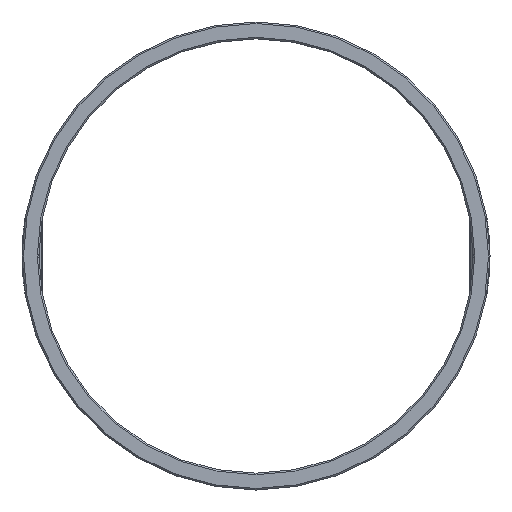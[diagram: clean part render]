
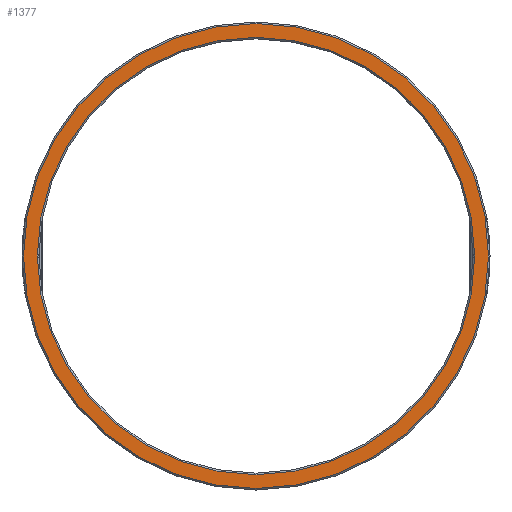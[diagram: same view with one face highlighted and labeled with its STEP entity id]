
A CAD part, left-side view. The second image highlights one B-rep face of the part: STEP entity #1377.
In plain terms, the highlighted planar face has unit normal (-1, 0, 0).
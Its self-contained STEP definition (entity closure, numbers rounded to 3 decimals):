
#1346=CARTESIAN_POINT('',(-20.5,14.1,0.));
#1347=VERTEX_POINT('',#1346);
#1348=CARTESIAN_POINT('',(-20.5,0.0,0.0));
#1349=DIRECTION('',(-1.0,0.0,0.0));
#1350=DIRECTION('',(0.0,-1.0,0.0));
#1351=AXIS2_PLACEMENT_3D('',#1348,#1349,#1350);
#1352=CIRCLE('',#1351,14.1);
#1353=EDGE_CURVE('',#1347,#1347,#1352,.T.);
#1358=CARTESIAN_POINT('',(-20.5,14.545,0.0));
#1359=DIRECTION('',(-1.0,0.0,0.0));
#1360=DIRECTION('',(0.0,0.0,1.0));
#1361=AXIS2_PLACEMENT_3D('',#1358,#1359,#1360);
#1362=PLANE('',#1361);
#1363=CARTESIAN_POINT('',(-20.5,14.99,0.));
#1364=VERTEX_POINT('',#1363);
#1365=CARTESIAN_POINT('',(-20.5,0.0,0.0));
#1366=DIRECTION('',(1.0,0.0,0.0));
#1367=DIRECTION('',(0.0,-1.0,0.0));
#1368=AXIS2_PLACEMENT_3D('',#1365,#1366,#1367);
#1369=CIRCLE('',#1368,14.99);
#1370=EDGE_CURVE('',#1364,#1364,#1369,.T.);
#1371=ORIENTED_EDGE('',*,*,#1370,.F.);
#1372=EDGE_LOOP('',(#1371));
#1373=FACE_OUTER_BOUND('',#1372,.T.);
#1374=ORIENTED_EDGE('',*,*,#1353,.F.);
#1375=EDGE_LOOP('',(#1374));
#1376=FACE_BOUND('',#1375,.T.);
#1377=ADVANCED_FACE('',(#1373,#1376),#1362,.T.);
